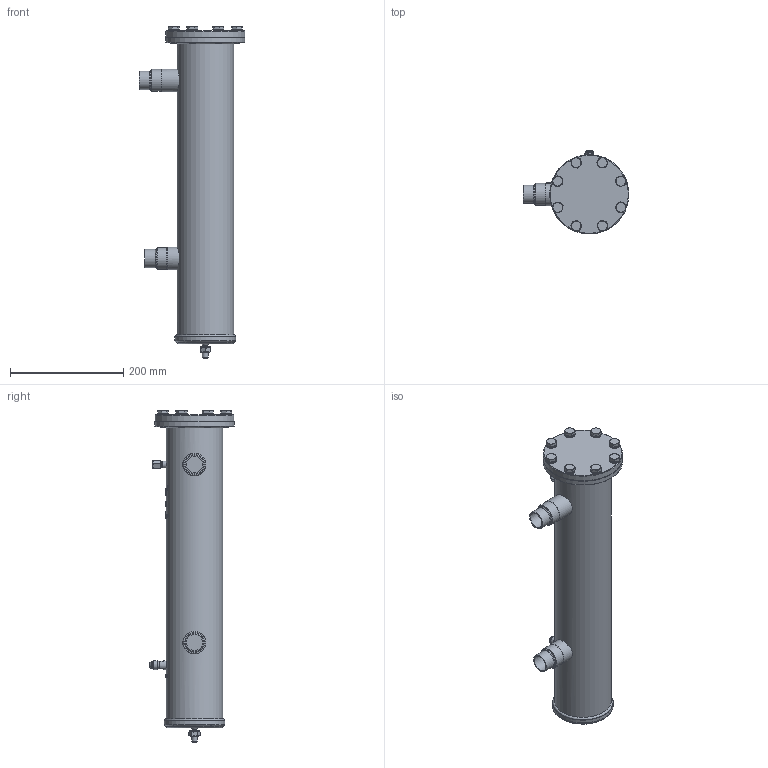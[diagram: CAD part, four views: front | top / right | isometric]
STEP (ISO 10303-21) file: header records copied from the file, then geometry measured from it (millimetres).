
FILE_DESCRIPTION(/* description */ (''),/* implementation_level */ '2;1');
FILE_NAME(/* name */ 'P:\OS\BOS2-35_28F\BOS2-35_28F.stp',/* time_stamp */ '2017-10-04T07:47:52+02:00',/* author */ ('neufeld'),/* organization */ (''),/* preprocessor_version */ 'ST-DEVELOPER v16.1',/* originating_system */ 'Autodesk Inventor 2016',/* authorisation */ '');
FILE_SCHEMA (('AUTOMOTIVE_DESIGN { 1 0 10303 214 3 1 1 }'));
Length unit declared in the file: millimetre
Products named in the file (2): BOS2-35_28F; BOS2-35_28F_1
Assembly tree (1 placements, depth 2):
  BOS2-35_28F_1
    BOS2-35_28F
Bounding box: 187 x 149 x 587.3 mm (x, y, z)
Volume: 4659402.7 mm3; surface area: 239078.8 mm2
Topology: 1 solids, 1 shells, 1530 faces, 4067 edges, 2676 vertices
Faces by surface type: plane 787, bspline 482, cylinder 169, cone 85, torus 7
Full cylindrical faces by diameter (mm): 7 x1, 7.2 x1, 8.1 x1, 8.9 x1, 10 x10, 11.1 x1, 12 x1, 12.9 x1, 13.5 x1, 15.4 x8, 15.7 x1, 16 x1, 28.7 x2, 32.5 x2, 35 x2, 39 x2, 40 x2, 100 x1, 107.5 x1, 138 x1, 140 x2
Entity records: 56592 total; most frequent: CARTESIAN_POINT 21658, ORIENTED_EDGE 7936, DIRECTION 6050, EDGE_CURVE 3966, VERTEX_POINT 2652, AXIS2_PLACEMENT_3D 2142, LINE 1766, VECTOR 1766
